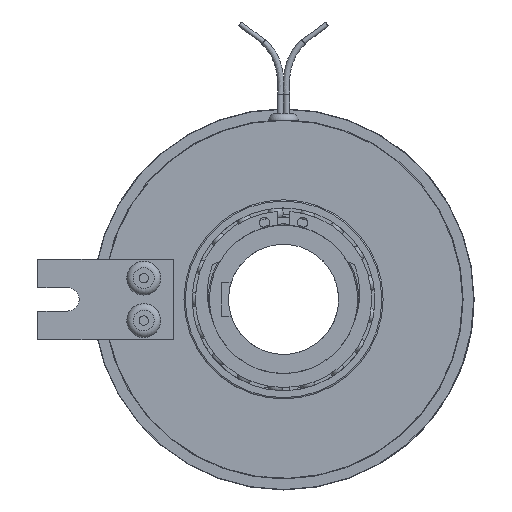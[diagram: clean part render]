
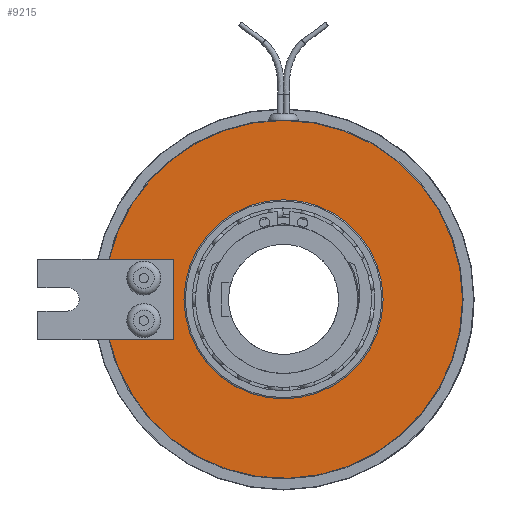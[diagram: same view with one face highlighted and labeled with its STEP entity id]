
A CAD part, left-side view. The second image highlights one B-rep face of the part: STEP entity #9215.
In plain terms, the highlighted planar face has unit normal (-1, 0, 0).
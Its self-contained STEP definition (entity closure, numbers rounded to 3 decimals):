
#372=FACE_BOUND('',#1446,.T.);
#528=PLANE('',#10222);
#889=FACE_OUTER_BOUND('',#1445,.T.);
#1445=EDGE_LOOP('',(#7280,#7281,#7282,#7283,#7284,#7285));
#1446=EDGE_LOOP('',(#7286,#7287));
#2005=CIRCLE('',#9954,42.25);
#2008=CIRCLE('',#9957,42.25);
#2198=CIRCLE('',#10223,42.25);
#2199=CIRCLE('',#10224,23.5);
#2200=CIRCLE('',#10225,23.5);
#2790=LINE('',#15824,#3188);
#2791=LINE('',#15827,#3189);
#2792=LINE('',#15828,#3190);
#3188=VECTOR('',#12601,10.);
#3189=VECTOR('',#12604,10.);
#3190=VECTOR('',#12605,10.);
#3712=VERTEX_POINT('',#15261);
#3713=VERTEX_POINT('',#15263);
#3715=VERTEX_POINT('',#15267);
#3716=VERTEX_POINT('',#15269);
#3913=VERTEX_POINT('',#15823);
#3914=VERTEX_POINT('',#15826);
#3915=VERTEX_POINT('',#15829);
#3916=VERTEX_POINT('',#15830);
#4847=EDGE_CURVE('',#3713,#3712,#2005,.T.);
#4850=EDGE_CURVE('',#3716,#3715,#2008,.T.);
#5114=EDGE_CURVE('',#3913,#3713,#2790,.T.);
#5115=EDGE_CURVE('',#3712,#3716,#2198,.T.);
#5116=EDGE_CURVE('',#3715,#3914,#2791,.T.);
#5117=EDGE_CURVE('',#3914,#3913,#2792,.T.);
#5118=EDGE_CURVE('',#3915,#3916,#2199,.T.);
#5119=EDGE_CURVE('',#3916,#3915,#2200,.T.);
#7280=ORIENTED_EDGE('',*,*,#5114,.T.);
#7281=ORIENTED_EDGE('',*,*,#4847,.T.);
#7282=ORIENTED_EDGE('',*,*,#5115,.T.);
#7283=ORIENTED_EDGE('',*,*,#4850,.T.);
#7284=ORIENTED_EDGE('',*,*,#5116,.T.);
#7285=ORIENTED_EDGE('',*,*,#5117,.T.);
#7286=ORIENTED_EDGE('',*,*,#5118,.F.);
#7287=ORIENTED_EDGE('',*,*,#5119,.F.);
#9215=ADVANCED_FACE('',(#889,#372),#528,.T.);
#9954=AXIS2_PLACEMENT_3D('',#15264,#11990,#11991);
#9957=AXIS2_PLACEMENT_3D('',#15270,#11996,#11997);
#10222=AXIS2_PLACEMENT_3D('',#15822,#12599,#12600);
#10223=AXIS2_PLACEMENT_3D('',#15825,#12602,#12603);
#10224=AXIS2_PLACEMENT_3D('',#15831,#12606,#12607);
#10225=AXIS2_PLACEMENT_3D('',#15832,#12608,#12609);
#11990=DIRECTION('center_axis',(-1.,0.,0.));
#11991=DIRECTION('ref_axis',(0.,1.,0.));
#11996=DIRECTION('center_axis',(-1.,0.,0.));
#11997=DIRECTION('ref_axis',(0.,1.,0.));
#12599=DIRECTION('center_axis',(-1.,0.,0.));
#12600=DIRECTION('ref_axis',(0.,0.,
1.));
#12601=DIRECTION('',(0.,1.,0.));
#12602=DIRECTION('center_axis',(-1.,0.,0.));
#12603=DIRECTION('ref_axis',(0.,1.,0.));
#12604=DIRECTION('',(0.,-1.,0.));
#12605=DIRECTION('',(0.,0.,-1.));
#12606=DIRECTION('center_axis',(-1.,0.,0.));
#12607=DIRECTION('ref_axis',(0.,1.,0.));
#12608=DIRECTION('center_axis',(-1.,0.,0.));
#12609=DIRECTION('ref_axis',(0.,1.,0.));
#15261=CARTESIAN_POINT('',(-31.3,-42.25,0.));
#15263=CARTESIAN_POINT('',(-31.3,41.168,-9.5));
#15264=CARTESIAN_POINT('Origin',(-31.3,0.,0.));
#15267=CARTESIAN_POINT('',(-31.3,41.168,9.5));
#15269=CARTESIAN_POINT('',(-31.3,0.,42.25));
#15270=CARTESIAN_POINT('Origin',(-31.3,0.,0.));
#15822=CARTESIAN_POINT('Origin',(-31.3,32.875,0.));
#15823=CARTESIAN_POINT('',(-31.3,26.,-9.5));
#15824=CARTESIAN_POINT('',(-31.3,29.438,-9.5));
#15825=CARTESIAN_POINT('Origin',(-31.3,0.,0.));
#15826=CARTESIAN_POINT('',(-31.3,26.,9.5));
#15827=CARTESIAN_POINT('',(-31.3,45.438,9.5));
#15828=CARTESIAN_POINT('',(-31.3,26.,4.75));
#15829=CARTESIAN_POINT('',(-31.3,23.5,0.));
#15830=CARTESIAN_POINT('',(-31.3,-23.5,0.));
#15831=CARTESIAN_POINT('Origin',(-31.3,0.,0.));
#15832=CARTESIAN_POINT('Origin',(-31.3,0.,0.));
